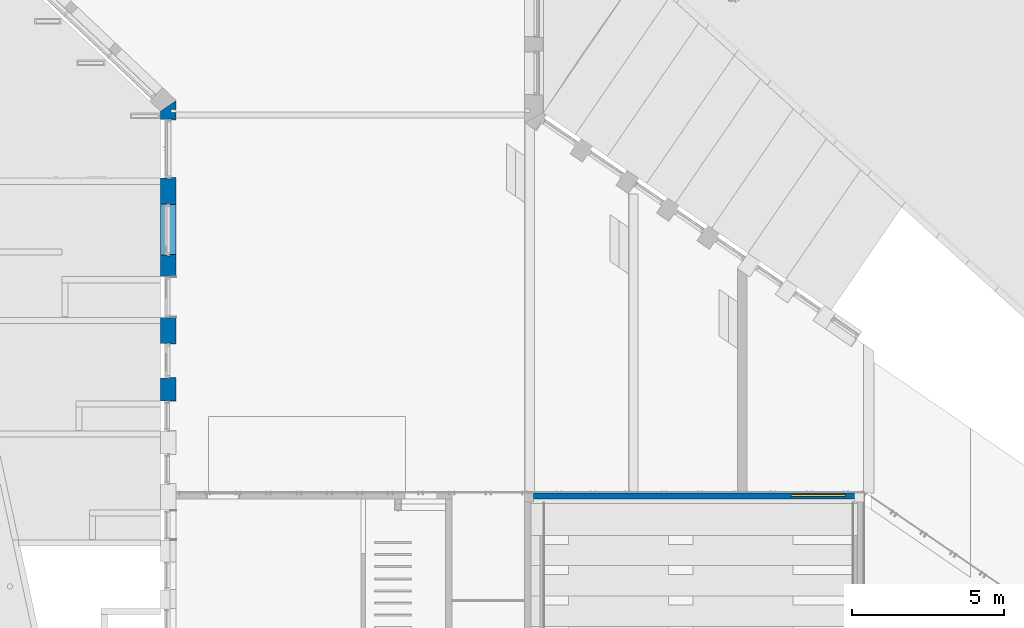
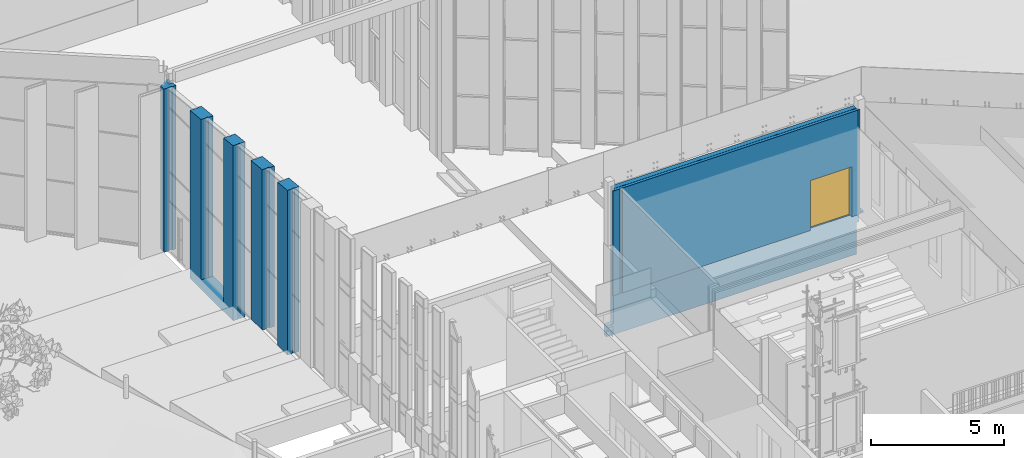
# One storey, part 123 of 246: 3 walls, 1 door, 4 openings.
"""IFC2X3 building model written with IfcOpenShell, lengths in millimetres."""

from ifc_helpers import new_model, entity, si_unit, converted_unit, derived_unit, money_unit, direction, frame, origin_with_axes, place, context, subcontext, project, spatial, faceted_brep, material, material_list, type_object, element, fill, save


model = new_model("IFC2X3")

# Units and contexts
model_context = context("Model", 3, precision=0.01, world=origin_with_axes(), true_north=direction((0.0, 1.0)))
body_context = subcontext(model_context, "Body", "Model", "MODEL_VIEW")
ifc_project = project(units=[si_unit("LENGTHUNIT", "METRE", prefix="MILLI"), si_unit("AREAUNIT", "SQUARE_METRE"), si_unit("VOLUMEUNIT", "CUBIC_METRE"), converted_unit("PLANEANGLEUNIT", "DEGREE", entity("IfcPlaneAngleMeasure", 0.0174532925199), si_unit("PLANEANGLEUNIT", "RADIAN"), dimensions=[0, 0, 0, 0, 0, 0, 0]), si_unit("SOLIDANGLEUNIT", "STERADIAN"), money_unit("EUR"), converted_unit("TIMEUNIT", "Year", entity("IfcTimeMeasure", 31556926.0), si_unit("TIMEUNIT", "SECOND"), dimensions=[0, 0, 1, 0, 0, 0, 0]), si_unit("MASSUNIT", "GRAM", prefix="KILO"), si_unit("THERMODYNAMICTEMPERATUREUNIT", "DEGREE_CELSIUS"), si_unit("LUMINOUSINTENSITYUNIT", "LUMEN"), si_unit("ENERGYUNIT", "JOULE", prefix="MEGA"), derived_unit("THERMALCONDUCTANCEUNIT", [(si_unit("POWERUNIT", "WATT"), 1), (si_unit("LENGTHUNIT", "METRE"), -1), (si_unit("THERMODYNAMICTEMPERATUREUNIT", "KELVIN"), -1)]), derived_unit("SPECIFICHEATCAPACITYUNIT", [(si_unit("ENERGYUNIT", "JOULE"), 1), (si_unit("MASSUNIT", "GRAM", prefix="KILO"), -1), (si_unit("THERMODYNAMICTEMPERATUREUNIT", "KELVIN"), -1)]), derived_unit("MASSDENSITYUNIT", [(si_unit("MASSUNIT", "GRAM", prefix="KILO"), 1), (si_unit("VOLUMEUNIT", "CUBIC_METRE"), -1)])], contexts=[model_context])

# Site, building, storey
site_placement = place(None, origin_with_axes())
site = spatial("IfcSite", under=ifc_project, at=site_placement, Name="L.Koidula tn 11b", CompositionType="ELEMENT")
building_placement = place(site_placement, origin_with_axes())
building = spatial("IfcBuilding", under=site, at=building_placement, Name="Rakvere Riigigümnaasium", CompositionType="ELEMENT")
storey_placement = place(building_placement, origin_with_axes())
storey = spatial("IfcBuildingStorey", under=building, at=storey_placement, Name="1.korrus 0,00", CompositionType="ELEMENT", Elevation=0.0)

# Wall, opening, door
ifc_material_1 = material(Name="Betoon element / plaat")
ifc_material_2 = material(Name="mineraalvill+karkass")
ifc_material_3 = material(Name="Kipsplaat")
ifc_material_list_1 = material_list([ifc_material_1, ifc_material_2, ifc_material_3])
wall_type_1 = type_object("IfcWallType", Name="SS-02 335", PredefinedType="NOTDEFINED")
wall_1_placement = place(storey_placement, frame((46999.9999935, 31500.4555152, -500.0), z_axis=(0.0, 0.0, 1.0), x_axis=(1.0, 0.0, 0.0)))
wall_1 = element("IfcWall", 1, at=wall_1_placement, inside=storey, type_object=wall_type_1, material=ifc_material_list_1, Name="Sisesein", context=body_context, shape_type="Brep", body=[
    faceted_brep([(10980.0348166, -200.0, 1449.82181515), (10980.0348166, -200.0, 1804.82181515), (11180.0348166, -200.0, 1804.82181515), (11180.0348884, -200.0, 1894.82181515), (10880.0348884, -200.0, 1894.82181515), (10880.0348884, -200.0, 6715.0), (300.000069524, -200.0, 6715.0), (300.000069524, -200.0, 500.0), (6.95239350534e-05, -200.0, 500.0), (0.0, -200.0, 0.0), (10880.0348884, -200.0, 0.0), (10880.0348884, -200.0, 1449.82181515), (10595.0, -200.0, 1894.82181515), (8795.0, -200.0, 1894.82181515), (8795.0, -200.0, 4194.82181515), (10595.0, -200.0, 4194.82181515), (10980.0348166, -2.07142676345e-05, 1449.82181515), (10980.0348166, -1.49659129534e-06, 1804.82181515), (11180.0348166, -1.49659129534e-06, 1804.82181515), (11180.0348884, -2.07142676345e-05, 1894.82181515), (10880.0348884, -2.07142676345e-05, 1894.82181515), (10880.0348884, -2.07142676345e-05, 6715.0), (300.000069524, -2.07142676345e-05, 6715.0), (300.000069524, -2.07142676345e-05, 500.0), (6.95239350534e-05, -2.07142676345e-05, 500.0), (0.0, 0.0, 0.0), (10880.0348884, -2.07142676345e-05, 0.0), (10880.0348884, -2.07142676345e-05, 1449.82181515), (8795.0, -2.07142676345e-05, 1894.82181515), (10595.0, -2.07142676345e-05, 1894.82181515), (8795.0, -2.07142676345e-05, 4194.82181515), (10595.0, -2.07142676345e-05, 4194.82181515)], [[[0, 1, 2, 3, 4, 5, 6, 7, 8, 9, 10, 11], [12, 13, 14, 15]], [[16, 17, 1, 0]], [[17, 18, 2, 1]], [[3, 2, 18, 19]], [[19, 20, 4, 3]], [[21, 5, 4, 20]], [[6, 5, 21, 22]], [[22, 23, 7, 6]], [[24, 8, 7, 23]], [[24, 25, 9, 8]], [[10, 9, 25, 26]], [[27, 11, 10, 26]], [[16, 0, 11, 27]], [[28, 13, 12, 29]], [[30, 14, 13, 28]], [[30, 31, 15, 14]], [[31, 29, 12, 15]], [[19, 18, 17, 16, 27, 26, 25, 24, 23, 22, 21, 20], [28, 29, 31, 30]]]),
    faceted_brep([(200.034816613, -299.999998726, 500.0), (200.034816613, -209.999974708, 500.0), (0.0, -210.0, 500.0), (0.0, -310.0, 500.0), (200.0, -310.0, 500.0), (200.0, -300.000020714, 500.0), (200.034816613, -209.999999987, 0.0), (200.034816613, -299.999998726, 0.0), (200.000000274, -210.0, 0.0), (200.000000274, -210.0, 329.999999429), (0.0, -210.0, 329.999999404), (0.0, -310.0, 329.999999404), (10595.0, -310.0, 1894.9938315), (10970.0348166, -310.0, 1894.9938315), (10970.0348166, -310.0, 6715.0), (200.0, -310.0, 6715.0), (200.000000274, -310.0, 329.999999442), (200.000000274, -310.0, 0.0), (200.034816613, -310.0, 0.0), (200.034816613, -310.0, 1544.9938315), (200.034816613, -310.0, 1834.9938315), (200.034816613, -310.0, 1894.9938315), (8795.0, -310.0, 1894.9938315), (8795.0, -310.0, 4194.82181515), (10595.0, -310.0, 4194.82181515), (200.0, -300.000020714, 6715.0), (200.034816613, -299.999998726, 1894.9938315), (200.034816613, -300.000020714, 1834.9938315), (200.034816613, -299.999998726, 1544.9938315), (300.000069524, -300.000020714, 6715.0), (300.000069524, -300.000020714, 1894.9938315), (10880.0348884, -300.000020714, 1894.9938315), (10970.0348166, -300.000020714, 1894.9938315), (10595.0, -210.000000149, 1894.9938315), (10880.0348884, -210.000000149, 1894.9938315), (10970.0348166, -300.000020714, 6715.0), (10880.0348884, -300.000020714, 6715.0), (10880.0348884, -210.0, 6715.0), (300.000069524, -210.0, 6715.0), (300.000069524, -210.000000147, 1894.9938315), (8795.0, -210.000000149, 1894.9938315), (8795.0, -210.000000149, 4194.82181515), (10595.0, -210.000000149, 4194.82181515)], [[[0, 1, 2, 3, 4, 5]], [[6, 1, 0, 7]], [[1, 6, 8, 9, 10, 2]], [[11, 3, 2, 10]], [[12, 13, 14, 15, 4, 3, 11, 16, 17, 18, 19, 20, 21, 22, 23, 24]], [[15, 25, 5, 4]], [[26, 27, 28, 0, 5, 25, 29, 30]], [[7, 0, 28, 19, 18]], [[6, 7, 18, 17, 8]], [[8, 17, 16, 9]], [[9, 16, 11, 10]], [[31, 32, 13, 12, 33, 34]], [[13, 32, 35, 14]], [[14, 35, 36, 37, 38, 29, 25, 15]], [[27, 20, 19, 28]], [[27, 26, 21, 20]], [[39, 40, 22, 21, 26, 30]], [[22, 40, 41, 23]], [[24, 23, 41, 42]], [[33, 12, 24, 42]], [[39, 30, 29, 38]], [[32, 31, 36, 35]], [[34, 33, 42, 41, 40, 39, 38, 37]], [[31, 34, 37, 36]]]),
    faceted_brep([(0.0, -335.0, 500.0), (200.034816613, -335.0, 500.0), (200.034816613, -310.0, 500.0), (0.0, -310.0, 500.0), (200.000000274, -335.0, 0.0), (200.034816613, -335.0, 0.0), (0.0, -335.0, 329.999999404), (200.000000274, -335.0, 329.999999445), (200.034816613, -310.0, 0.0), (200.000000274, -310.0, 0.0), (200.000000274, -310.0, 329.999999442), (0.0, -310.0, 329.999999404)], [[[0, 1, 2, 3]], [[4, 5, 1, 0, 6, 7]], [[5, 8, 2, 1]], [[3, 2, 8, 9, 10, 11]], [[6, 0, 3, 11]], [[9, 8, 5, 4]], [[10, 7, 6, 11]], [[9, 4, 7, 10]]]),
    faceted_brep([(504.0, -335.0, 1894.9938315), (504.0, -310.0, 1894.9938315), (504.0, -310.0, 6715.0), (504.0, -335.0, 6715.0), (210.0, -310.0, 1894.9938315), (210.0, -335.0, 1894.9938315), (210.0, -310.0, 6715.0), (210.0, -335.0, 6715.0)], [[[0, 1, 2, 3]], [[4, 1, 0, 5]], [[1, 4, 6, 2]], [[2, 6, 7, 3]], [[5, 0, 3, 7]], [[4, 5, 7, 6]]]),
    faceted_brep([(8795.0, -335.0, 1894.9938315), (8795.0, -310.0, 1894.9938315), (8795.0, -310.0, 4194.82181515), (8795.0, -335.0, 4194.82181515), (612.0, -310.0, 1894.9938315), (612.0, -335.0, 1894.9938315), (10870.0348166, -310.0, 1894.9938315), (10595.0, -310.0, 1894.9938315), (10595.0, -310.0, 4194.82181515), (612.0, -310.0, 6715.0), (10870.0348166, -310.0, 6715.0), (10595.0, -335.0, 4194.82181515), (10595.0, -335.0, 1894.9938315), (10870.0348166, -335.0, 1894.9938315), (10870.0348166, -335.0, 6715.0), (612.0, -335.0, 6715.0)], [[[0, 1, 2, 3]], [[4, 1, 0, 5]], [[6, 7, 8, 2, 1, 4, 9, 10]], [[11, 3, 2, 8]], [[12, 13, 14, 15, 5, 0, 3, 11]], [[4, 5, 15, 9]], [[7, 6, 13, 12]], [[7, 12, 11, 8]], [[14, 10, 9, 15]], [[13, 6, 10, 14]]]),
])
opening_1_placement = place(wall_1_placement, frame((9695.0, 0.0, 1894.82181515), z_axis=(0.0, 0.0, 1.0), x_axis=(1.0, 0.0, 0.0)))
opening_1 = element("IfcOpeningElement", 2, at=opening_1_placement, cuts=wall_1, Name="SU-015", context=body_context, shape_type="Brep", body=[
    faceted_brep([(-900.0, -670.0, 0.0), (-900.0, -670.0, 2300.0), (-900.0, -50.0, 2300.0), (-900.0, -50.0, 0.0), (900.0, -670.0, 0.0), (900.0, -670.0, 2300.0), (900.0, -50.0, 2300.0), (900.0, -50.0, 0.0)], [[[0, 1, 2, 3]], [[0, 4, 5, 1]], [[1, 5, 6, 2]], [[3, 2, 6, 7]], [[4, 0, 3, 7]], [[5, 4, 7, 6]]]),
    faceted_brep([(-900.0, 335.0, 2300.0), (-900.0, 335.0, 0.0), (-900.0, -50.0, 0.0), (-900.0, -50.0, 2300.0), (900.0, 335.0, 2300.0), (900.0, 335.0, 0.0), (900.0, -50.0, 0.0), (900.0, -50.0, 2300.0)], [[[0, 1, 2, 3]], [[0, 4, 5, 1]], [[1, 5, 6, 2]], [[3, 2, 6, 7]], [[4, 0, 3, 7]], [[5, 4, 7, 6]]]),
])
door_style = type_object("IfcDoorStyle", Name="Double Door 23", ConstructionType="NOTDEFINED", OperationType="DOUBLE_DOOR_SINGLE_SWING", ParameterTakesPrecedence=False, Sizeable=False)
door_placement = place(opening_1_placement, frame((900.0, 0.0, 0.0), z_axis=(0.0, 0.0, 1.0), x_axis=(-1.0, 0.0, 0.0)))
door = element("IfcDoor", 3, at=door_placement, inside=storey, type_object=door_style, Name="SU-015", ObjectType="DOOR", OverallHeight=2300.0, OverallWidth=1800.0, context=body_context, shape_type="Brep", body=[
    faceted_brep([(50.0, 90.0, 0.0), (50.0, 90.0, 2250.0), (50.0, 50.0, 2250.0), (50.0, 50.0, 0.0), (38.0, 90.0, 2250.0), (38.0, 90.0, 0.0), (38.0, 130.0, 2250.0), (0.0, 130.0, 2250.0), (0.0, 50.0, 2250.0), (0.0, 50.0, 0.0), (0.0, 130.0, 0.0), (38.0, 130.0, 0.0)], [[[0, 1, 2, 3]], [[4, 1, 0, 5]], [[4, 6, 7, 8, 2, 1]], [[3, 2, 8, 9]], [[5, 0, 3, 9, 10, 11]], [[6, 4, 5, 11]], [[6, 11, 10, 7]], [[10, 9, 8, 7]]]),
    faceted_brep([(1762.0, 90.0, 2250.0), (1750.0, 90.0, 2250.0), (1750.0, 50.0, 2250.0), (1800.0, 50.0, 2250.0), (1800.0, 130.0, 2250.0), (1762.0, 130.0, 2250.0), (1762.0, 90.0, 0.0), (1750.0, 90.0, 0.0), (1750.0, 50.0, 0.0), (1800.0, 50.0, 0.0), (1800.0, 130.0, 0.0), (1762.0, 130.0, 0.0)], [[[0, 1, 2, 3, 4, 5]], [[1, 0, 6, 7]], [[1, 7, 8, 2]], [[3, 2, 8, 9]], [[4, 3, 9, 10]], [[11, 5, 4, 10]], [[0, 5, 11, 6]], [[6, 11, 10, 9, 8, 7]]]),
    faceted_brep([(38.0, 130.0, 2262.0), (38.0, 130.0, 2250.0), (0.0, 130.0, 2250.0), (0.0, 130.0, 2300.0), (1800.0, 130.0, 2300.0), (1800.0, 130.0, 2250.0), (1762.0, 130.0, 2250.0), (1762.0, 130.0, 2262.0), (38.0, 90.0, 2262.0), (38.0, 90.0, 2250.0), (50.0, 90.0, 2250.0), (50.0, 50.0, 2250.0), (0.0, 50.0, 2250.0), (0.0, 50.0, 2300.0), (1800.0, 50.0, 2300.0), (1800.0, 50.0, 2250.0), (1762.0, 90.0, 2250.0), (1750.0, 50.0, 2250.0), (1750.0, 90.0, 2250.0), (1762.0, 90.0, 2262.0)], [[[0, 1, 2, 3, 4, 5, 6, 7]], [[1, 0, 8, 9]], [[9, 10, 11, 12, 2, 1]], [[2, 12, 13, 3]], [[3, 13, 14, 4]], [[4, 14, 15, 5]], [[16, 6, 5, 15, 17, 18]], [[7, 6, 16, 19]], [[0, 7, 19, 8]], [[16, 18, 10, 9, 8, 19]], [[10, 18, 17, 11]], [[17, 15, 14, 13, 12, 11]]]),
    faceted_brep([(1762.0, 130.0, 0.0), (1762.0, 90.0, 0.0), (900.0, 90.0, 0.0), (900.0, 130.0, 0.0), (1762.0, 130.0, 2262.0), (1762.0, 90.0, 2262.0), (900.0, 90.0, 2262.0), (900.0, 130.0, 2262.0)], [[[0, 1, 2, 3]], [[4, 5, 1, 0]], [[1, 5, 6, 2]], [[3, 2, 6, 7]], [[0, 3, 7, 4]], [[7, 6, 5, 4]]]),
    faceted_brep([(38.0, 130.0, 0.0), (900.0, 130.0, 0.0), (900.0, 90.0, 0.0), (38.0, 90.0, 0.0), (38.0, 130.0, 2262.0), (900.0, 130.0, 2262.0), (900.0, 90.0, 2262.0), (38.0, 90.0, 2262.0)], [[[0, 1, 2, 3]], [[0, 4, 5, 1]], [[1, 5, 6, 2]], [[3, 2, 6, 7]], [[4, 0, 3, 7]], [[5, 4, 7, 6]]]),
])
fill(opening_1, door)

# Wall, openings
ifc_material_4 = material(Name="FF-PIR soojustus")
ifc_material_5 = material(Name="Tuuletõke (RKL Facade)")
ifc_material_6 = material(Name="Salto-roovitus")
ifc_material_7 = material(Name="Puit-fassaad")
ifc_material_list_2 = material_list([ifc_material_1, ifc_material_4, ifc_material_5, ifc_material_6, ifc_material_6, ifc_material_7])
wall_type_2 = type_object("IfcWallType", Name="VS-03 514", PredefinedType="NOTDEFINED")
wall_2_placement = place(storey_placement, frame((35500.0000521, 44445.5569395, 0.0), z_axis=(0.0, 0.0, 1.0), x_axis=(0.0, -1.0, 0.0)))
wall_2 = element("IfcWall", 4, at=wall_2_placement, inside=storey, type_object=wall_type_2, material=ifc_material_list_2, Name="Välissein", context=body_context, shape_type="Brep", body=[
    faceted_brep([(605.101447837, -160.0, 7511.25250656), (625.101447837, -160.0, 7513.35459126), (645.101447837, -160.0, 7515.45667597), (645.101447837, 8.42796055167e-07, 7515.45667597), (394.047503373, 8.42796055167e-07, 7489.06984312), (394.047503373, -169.999999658, 7489.06984312), (294.047503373, -169.999999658, 7478.5594196), (294.047503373, 8.42803160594e-07, 7478.5594196), (6.66973676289e-06, 8.42803160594e-07, 7447.65378232), (209.435644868, -300.000000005, 7469.66635491), (605.101447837, -300.0, 7511.25250656), (605.101447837, -160.0, 0.0), (625.101447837, -160.0, 0.0), (645.101447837, -160.0, 0.0), (645.101447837, 7.49302841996e-07, 0.0), (394.047503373, 7.85689735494e-07, 0.0), (394.047503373, -169.999999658, 0.0), (294.047503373, -169.999999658, 0.0), (294.047503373, 8.00184807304e-07, 0.0), (6.66973676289e-06, 8.42803160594e-07, 0.0), (209.435646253, -300.000001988, 0.0), (605.101447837, -300.0, 0.0)], [[[0, 1, 2, 3, 4, 5, 6, 7, 8, 9, 10]], [[1, 0, 11, 12, 13, 2]], [[13, 14, 3, 2]], [[14, 15, 4, 3]], [[16, 5, 4, 15]], [[17, 6, 5, 16]], [[17, 18, 7, 6]], [[8, 7, 18, 19]], [[19, 20, 9, 8]], [[21, 10, 9, 20]], [[0, 10, 21, 11]], [[11, 21, 20, 19, 18, 17, 16, 15, 14, 13, 12]]]),
    faceted_brep([(2585.10144784, -160.0, 0.0), (2565.10144784, -160.0, 0.0), (2545.10144784, -160.0, 0.0), (2545.10144784, 4.73932004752e-07, 0.0), (5815.10142423, 0.0, 0.0), (5815.10142423, -200.0, 0.0), (5795.1014641, -200.0, 0.0), (5795.1014641, -300.0, 0.0), (5125.10141418, -300.0, 0.0), (5125.10141418, -200.0, 0.0), (5085.10141418, -200.0, 0.0), (5085.10141418, -300.0, 0.0), (3435.10141418, -300.0, 0.0), (3435.10141418, -200.0, 0.0), (3395.10141418, -200.0, 0.0), (3395.10141418, -300.0, 0.0), (2585.10144784, -300.0, 0.0), (2585.10144784, -160.0, 7719.35889238), (2565.10144784, -160.0, 7717.25680768), (2545.10144784, -160.0, 7715.15472297), (2545.10144784, 8.42803160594e-07, 7715.15472297), (5085.10141418, -7.00689639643e-06, 7982.11947701), (5815.10142423, 0.0, 8058.84556981), (3435.10141418, -7.00689639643e-06, 7808.69748882), (3435.10141418, -7.00689639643e-06, 436.0), (5085.10141418, -7.00689639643e-06, 436.0), (5815.10142423, -200.0, 8058.84556981), (5795.1014641, -200.0, 8056.74348929), (5795.1014641, -300.0, 8056.74348929), (5125.10141418, -300.0, 7986.32364642), (5125.10141418, -200.0, 7986.32364642), (5085.10141418, -200.0, 7982.11947701), (5085.10141418, -200.0, 436.0), (5085.10141418, -300.0, 436.0), (3435.10141418, -300.0, 436.0), (3435.10141418, -200.0, 436.0), (3395.10141418, -200.0, 7804.49331941), (3435.10141418, -200.0, 7808.69748882), (3395.10141418, -300.0, 7804.49331941), (2585.10144784, -300.0, 7719.35889238)], [[[0, 1, 2, 3, 4, 5, 6, 7, 8, 9, 10, 11, 12, 13, 14, 15, 16]], [[17, 18, 19, 2, 1, 0]], [[19, 20, 3, 2]], [[21, 22, 4, 3, 20, 23, 24, 25]], [[22, 26, 5, 4]], [[5, 26, 27, 6]], [[6, 27, 28, 7]], [[8, 7, 28, 29]], [[9, 8, 29, 30]], [[9, 30, 31, 32, 10]], [[11, 10, 32, 33]], [[34, 12, 11, 33]], [[35, 13, 12, 34]], [[36, 14, 13, 35, 37]], [[38, 15, 14, 36]], [[39, 16, 15, 38]], [[39, 17, 0, 16]], [[17, 39, 38, 36, 37, 23, 20, 19, 18]], [[28, 27, 26, 22, 21, 31, 30, 29]], [[23, 37, 35, 24]], [[24, 35, 32, 25]], [[31, 21, 25, 32]], [[35, 34, 33, 32]]]),
    faceted_brep([(265.285149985, -380.000002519, 0.0), (265.28514823, -380.000000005, 7475.53637426), (209.435644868, -300.000000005, 7469.66635491), (209.435646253, -300.000001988, 0.0), (625.101447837, -380.000002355, 0.0), (625.101447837, -380.000000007, 7513.35459126), (625.101447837, -300.000000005, 7513.35459126), (625.101447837, -300.000001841, 0.0)], [[[0, 1, 2, 3]], [[4, 5, 1, 0]], [[5, 6, 2, 1]], [[3, 2, 6, 7]], [[4, 0, 3, 7]], [[7, 6, 5, 4]]]),
    faceted_brep([(5105.10141418, -380.0, 7984.22156171), (5105.10141418, -300.000001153, 7984.22156171), (5105.10141418, -300.000001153, 436.0), (5105.10141418, -380.0, 436.0), (5815.10142423, -300.0, 8058.84556981), (5815.10142423, -380.0, 8058.84556981), (5815.10142423, -300.0, 0.0), (2565.10144784, -300.000001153, 0.0), (2565.10144784, -300.000000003, 7717.25680768), (3415.10141418, -300.000001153, 7806.59540411), (3415.10141418, -300.000001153, 436.0), (3415.10141418, -380.0, 436.0), (3415.10141418, -380.0, 7806.59540411), (2565.10144784, -380.000000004, 7717.25680768), (2565.10144784, -380.000001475, 0.0), (5815.10142423, -380.0, 0.0)], [[[0, 1, 2, 3]], [[4, 1, 0, 5]], [[1, 4, 6, 7, 8, 9, 10, 2]], [[10, 11, 3, 2]], [[5, 0, 3, 11, 12, 13, 14, 15]], [[4, 5, 15, 6]], [[6, 15, 14, 7]], [[13, 8, 7, 14]], [[9, 8, 13, 12]], [[9, 12, 11, 10]]]),
    faceted_brep([(5105.10141418, -430.0, 7984.22156171), (5105.10141418, -380.000001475, 7984.22156171), (5105.10141418, -380.000001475, 436.0), (5105.10141418, -430.0, 436.0), (5815.10142423, -380.0, 8058.84556981), (5815.10142423, -430.0, 8058.84556981), (2565.10144784, -380.000002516, 7717.25680768), (3415.10141418, -380.000001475, 7806.59540411), (3415.10141418, -380.000001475, 436.0), (5815.10142423, -380.0, 0.0), (2565.10144784, -380.000001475, 0.0), (3415.10141418, -430.0, 436.0), (3415.10141418, -430.0, 7806.59540411), (2565.10144784, -430.000000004, 7717.25680768), (2565.10144784, -430.00000168, 0.0), (5815.10142423, -430.0, 0.0)], [[[0, 1, 2, 3]], [[4, 1, 0, 5]], [[6, 7, 8, 2, 1, 4, 9, 10]], [[3, 2, 8, 11]], [[12, 13, 14, 15, 5, 0, 3, 11]], [[4, 5, 15, 9]], [[7, 6, 13, 12]], [[7, 12, 11, 8]], [[14, 10, 9, 15]], [[13, 6, 10, 14]]]),
    faceted_brep([(300.19108783, -430.000000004, 7479.20513634), (265.28514823, -380.000000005, 7475.53637426), (265.285149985, -380.000002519, 0.0), (300.191089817, -430.00000285, 0.0), (625.101447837, -380.000002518, 7513.35459126), (625.101447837, -430.000000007, 7513.35459126), (625.101447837, -380.000002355, 0.0), (625.101447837, -430.000002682, 0.0)], [[[0, 1, 2, 3]], [[4, 1, 0, 5]], [[1, 4, 6, 2]], [[6, 7, 3, 2]], [[5, 0, 3, 7]], [[4, 5, 7, 6]]]),
    faceted_brep([(5105.10141418, -462.0, 7984.22156171), (5105.10141418, -430.00000168, 7984.22156171), (5105.10141418, -430.00000168, 436.0), (5105.10141418, -462.0, 436.0), (5815.10142423, -430.0, 8058.84556981), (5815.10142423, -462.0, 8058.84556981), (2565.10144784, -430.000002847, 7717.25680768), (3415.10141418, -430.00000168, 7806.59540411), (3415.10141418, -430.00000168, 436.0), (5815.10142423, -430.0, 0.0), (2565.10144784, -430.00000168, 0.0), (3415.10141418, -462.0, 436.0), (3415.10141418, -462.0, 7806.59540411), (2565.10144784, -462.000000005, 7717.25680768), (2565.10144784, -462.000001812, 0.0), (5815.10142423, -462.0, 0.0)], [[[0, 1, 2, 3]], [[4, 1, 0, 5]], [[6, 7, 8, 2, 1, 4, 9, 10]], [[11, 3, 2, 8]], [[12, 13, 14, 15, 5, 0, 3, 11]], [[4, 5, 15, 9]], [[7, 6, 13, 12]], [[7, 12, 11, 8]], [[15, 14, 10, 9]], [[13, 6, 10, 14]]]),
    faceted_brep([(322.530889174, -462.000000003, 7481.55314408), (300.19108783, -430.000000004, 7479.20513634), (300.191089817, -430.00000285, 0.0), (322.53089131, -462.000003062, 0.0), (625.101447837, -430.00000285, 7513.35459126), (625.101447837, -462.000000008, 7513.35459126), (625.101447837, -430.000002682, 0.0), (625.101447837, -462.000002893, 0.0)], [[[0, 1, 2, 3]], [[4, 1, 0, 5]], [[1, 4, 6, 2]], [[2, 6, 7, 3]], [[5, 0, 3, 7]], [[4, 5, 7, 6]]]),
    faceted_brep([(5105.10141418, -494.0, 7984.22156171), (5105.10141418, -462.000001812, 7984.22156171), (5105.10141418, -462.000001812, 436.0), (5105.10141418, -494.0, 436.0), (5815.10142423, -462.0, 8058.84556981), (5815.10142423, -494.0, 8058.84556981), (2565.10144784, -462.000003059, 7717.25680768), (3415.10141418, -462.000001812, 7806.59540411), (3415.10141418, -462.000001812, 436.0), (5815.10142423, -462.0, 0.0), (2565.10144784, -462.000001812, 0.0), (3415.10141418, -494.0, 436.0), (3415.10141418, -494.0, 7806.59540411), (2565.10144784, -494.000000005, 7717.25680768), (2565.10144784, -494.000001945, 0.0), (5815.10142423, -494.0, 0.0)], [[[0, 1, 2, 3]], [[4, 1, 0, 5]], [[6, 7, 8, 2, 1, 4, 9, 10]], [[11, 3, 2, 8]], [[12, 13, 14, 15, 5, 0, 3, 11]], [[4, 5, 15, 9]], [[7, 6, 13, 12]], [[7, 12, 11, 8]], [[15, 14, 10, 9]], [[13, 6, 10, 14]]]),
    faceted_brep([(344.870690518, -494.000000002, 7483.90115182), (322.530889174, -462.000000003, 7481.55314408), (322.53089131, -462.000003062, 0.0), (344.870692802, -494.000003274, 0.0), (625.101447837, -462.000003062, 7513.35459126), (625.101447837, -494.000000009, 7513.35459126), (625.101447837, -462.000002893, 0.0), (625.101447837, -494.000003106, 0.0)], [[[0, 1, 2, 3]], [[4, 1, 0, 5]], [[1, 4, 6, 2]], [[2, 6, 7, 3]], [[5, 0, 3, 7]], [[4, 5, 7, 6]]]),
    faceted_brep([(5105.10141418, -514.0, 7984.22156171), (5105.10141418, -494.000001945, 7984.22156171), (5105.10141418, -494.000001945, 436.0), (5105.10141418, -514.0, 436.0), (5815.10142423, -494.0, 8058.84556981), (5815.10142423, -514.0, 8058.84556981), (2565.10144784, -494.000003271, 7717.25680768), (3415.10141418, -494.000001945, 7806.59540411), (3415.10141418, -494.000001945, 436.0), (5815.10142423, -494.0, 0.0), (2565.10144784, -494.000001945, 0.0), (3415.10141418, -514.0, 436.0), (3415.10141418, -514.0, 7806.59540411), (2565.10144784, -514.0, 7717.25680768), (2565.10144784, -514.0, 0.0), (5815.10142423, -514.0, 0.0)], [[[0, 1, 2, 3]], [[4, 1, 0, 5]], [[6, 7, 8, 2, 1, 4, 9, 10]], [[11, 3, 2, 8]], [[12, 13, 14, 15, 5, 0, 3, 11]], [[4, 5, 15, 9]], [[7, 6, 13, 12]], [[7, 12, 11, 8]], [[15, 14, 10, 9]], [[13, 6, 10, 14]]]),
    faceted_brep([(358.833066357, -514.0, 7485.36865665), (344.870690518, -494.000000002, 7483.90115182), (344.870692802, -494.000003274, 0.0), (358.833066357, -514.0, 0.0), (625.101447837, -494.000003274, 7513.35459126), (625.101447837, -514.0, 7513.35459126), (625.101447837, -494.000003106, 0.0), (625.101447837, -514.0, 0.0)], [[[0, 1, 2, 3]], [[4, 1, 0, 5]], [[1, 4, 6, 2]], [[2, 6, 7, 3]], [[5, 0, 3, 7]], [[4, 5, 7, 6]]]),
])
opening_2_placement = place(wall_2_placement, frame((1595.10144784, 0.0, 0.0), z_axis=(0.0, 0.0, 1.0), x_axis=(1.0, 0.0, 0.0)))
element("IfcOpeningElement", 5, at=opening_2_placement, cuts=wall_2, Name="Ava", context=body_context, shape_type="Brep", body=[
    faceted_brep([(-970.0, -1028.0, 0.0), (-970.0, -1028.0, 7534.16938499), (-970.0, -160.0, 7534.16938499), (-970.0, -160.0, 0.0), (970.0, -1028.0, 0.0), (970.0, -1028.0, 7737.35885867), (970.0, -160.0, 7737.35885867), (970.0, -160.0, 0.0)], [[[0, 1, 2, 3]], [[0, 4, 5, 1]], [[1, 5, 6, 2]], [[3, 2, 6, 7]], [[4, 0, 3, 7]], [[5, 4, 7, 6]]]),
    faceted_brep([(950.0, 514.0, 0.0), (950.0, 514.0, 7715.15472297), (950.0, -160.0, 7715.15472297), (950.0, -160.0, 0.0), (-950.0, 514.0, 0.0), (-950.0, 514.0, 7516.15472297), (-950.0, -160.0, 7516.15472297), (-950.0, -160.0, 0.0)], [[[0, 1, 2, 3]], [[0, 4, 5, 1]], [[1, 5, 6, 2]], [[3, 2, 6, 7]], [[4, 0, 3, 7]], [[5, 4, 7, 6]]]),
])
opening_3_placement = place(wall_2_placement, frame((4260.10141418, 0.0, 436.0), z_axis=(0.0, 0.0, 1.0), x_axis=(1.0, 0.0, 0.0)))
element("IfcOpeningElement", 6, at=opening_3_placement, cuts=wall_2, Name="Ava", context=body_context, shape_type="Brep", body=[
    faceted_brep([(-845.0, -1028.0, 0.0), (-845.0, -1028.0, 7391.13213888), (-845.0, -200.0, 7391.13213888), (-845.0, -200.0, 0.0), (845.0, -1028.0, 0.0), (845.0, -1028.0, 7568.32607828), (845.0, -200.0, 7568.32607828), (845.0, -200.0, 0.0)], [[[0, 1, 2, 3]], [[0, 4, 5, 1]], [[1, 5, 6, 2]], [[3, 2, 6, 7]], [[4, 0, 3, 7]], [[5, 4, 7, 6]]]),
    faceted_brep([(825.0, 514.0, 0.0), (825.0, 514.0, 7546.11947701), (825.0, -200.0, 7546.11947701), (825.0, -200.0, 0.0), (-825.0, 514.0, 0.0), (-825.0, 514.0, 7373.11947701), (-825.0, -200.0, 7373.11947701), (-825.0, -200.0, 0.0)], [[[0, 1, 2, 3]], [[0, 4, 5, 1]], [[1, 5, 6, 2]], [[3, 2, 6, 7]], [[4, 0, 3, 7]], [[5, 4, 7, 6]]]),
])

# Wall, opening
wall_3_placement = place(storey_placement, frame((35500.0000521, 37290.3410804, 910.0), z_axis=(0.0, 0.0, 1.0), x_axis=(0.0, -1.0, 0.0)))
wall_3 = element("IfcWall", 7, at=wall_3_placement, inside=storey, type_object=wall_type_2, material=ifc_material_list_2, Name="Välissein", context=body_context, shape_type="Brep", body=[
    faceted_brep([(0.0, -200.0, 0.0), (0.0, -200.0, 7289.69727265), (0.0, 0.0, 7289.69727265), (0.0, 0.0, 0.0), (20.1392120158, -200.0, 7291.81398912), (20.1392120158, -200.0, 0.0), (20.1392120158, -300.0, 7291.81398912), (840.148712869, -300.000052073, 7378.00046062), (840.148712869, -200.0, 7378.00046062), (880.148712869, -200.0, 7382.20463003), (880.148712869, 0.0, 7382.20463003), (880.148712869, 0.0, 0.0), (880.148712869, -200.0, 0.0), (840.148712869, -200.0, 0.0), (840.148712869, -300.000005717, 0.0), (20.1392120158, -300.0, 0.0)], [[[0, 1, 2, 3]], [[4, 1, 0, 5]], [[4, 6, 7, 8, 9, 10, 2, 1]], [[11, 3, 2, 10]], [[5, 0, 3, 11, 12, 13, 14, 15]], [[6, 4, 5, 15]], [[6, 15, 14, 7]], [[13, 8, 7, 14]], [[9, 8, 13, 12]], [[12, 11, 10, 9]]]),
    faceted_brep([(2740.0, -200.0, 7577.68287727), (2760.0, -200.0, 7579.78496198), (2760.0, 0.0, 7579.78496198), (1980.14774523, 0.0, 7497.81918712), (1980.14774523, -200.0, 7497.81918712), (2020.14871287, -200.0, 7502.02345823), (2020.14871287, -300.000052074, 7502.02345823), (2740.0, -300.000052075, 7577.68287727), (2740.0, -200.0, 0.0), (2760.0, -200.0, 0.0), (2760.0, 0.0, 0.0), (1980.14871287, 0.0, 0.0), (1980.14871287, -200.0, 0.0), (2020.14871287, -200.0, 0.0), (2020.14871287, -300.000005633, 0.0), (2740.0, -300.000005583, 0.0)], [[[0, 1, 2, 3, 4, 5, 6, 7]], [[1, 0, 8, 9]], [[1, 9, 10, 2]], [[10, 11, 3, 2]], [[11, 12, 4, 3]], [[13, 5, 4, 12]], [[14, 6, 5, 13]], [[15, 7, 6, 14]], [[0, 7, 15, 8]], [[8, 15, 14, 13, 12, 11, 10, 9]]]),
    faceted_brep([(0.0, -300.0, 0.0), (0.0, -380.0, 0.0), (0.0, -380.0, 7289.69727265), (0.0, -300.0, 7289.69727265), (860.148712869, -300.0, 0.0), (860.148712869, -380.0, 0.0), (860.148712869, -380.0, 7380.10254533), (860.148712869, -300.0, 7380.10254533)], [[[0, 1, 2, 3]], [[0, 4, 5, 1]], [[1, 5, 6, 2]], [[2, 6, 7, 3]], [[4, 0, 3, 7]], [[5, 4, 7, 6]]]),
    faceted_brep([(2000.14871287, -300.0, 0.0), (2000.14871287, -380.0, 0.0), (2000.14871287, -380.0, 7499.92137353), (2000.14871287, -300.0, 7499.92137353), (2760.0, -380.0, 0.0), (2760.0, -300.0, 0.0), (2760.0, -380.0, 7579.78496198), (2760.0, -300.0, 7579.78496198)], [[[0, 1, 2, 3]], [[4, 1, 0, 5]], [[1, 4, 6, 2]], [[2, 6, 7, 3]], [[5, 0, 3, 7]], [[4, 5, 7, 6]]]),
    faceted_brep([(2000.14871287, -430.0, 7499.92137353), (2000.14871287, -380.0, 7499.92137353), (2000.14871287, -380.0, 0.0), (2000.14871287, -430.0, 0.0), (2760.0, -380.0, 7579.78496198), (2760.0, -430.0, 7579.78496198), (2760.0, -380.0, 0.0), (2760.0, -430.0, 0.0)], [[[0, 1, 2, 3]], [[4, 1, 0, 5]], [[1, 4, 6, 2]], [[7, 3, 2, 6]], [[5, 0, 3, 7]], [[4, 5, 7, 6]]]),
    faceted_brep([(0.0, -430.0, 7289.69727265), (0.0, -380.0, 7289.69727265), (0.0, -380.0, 0.0), (0.0, -430.0, 0.0), (860.148712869, -380.0, 7380.10254533), (860.148712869, -430.0, 7380.10254533), (860.148712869, -380.0, 0.0), (860.148712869, -430.0, 0.0)], [[[0, 1, 2, 3]], [[4, 1, 0, 5]], [[1, 4, 6, 2]], [[2, 6, 7, 3]], [[5, 0, 3, 7]], [[4, 5, 7, 6]]]),
    faceted_brep([(2000.14871287, -462.0, 7499.92137353), (2000.14871287, -430.0, 7499.92137353), (2000.14871287, -430.0, 0.0), (2000.14871287, -462.0, 0.0), (2760.0, -430.0, 7579.78496198), (2760.0, -462.0, 7579.78496198), (2760.0, -430.0, 0.0), (2760.0, -462.0, 0.0)], [[[0, 1, 2, 3]], [[4, 1, 0, 5]], [[1, 4, 6, 2]], [[7, 3, 2, 6]], [[5, 0, 3, 7]], [[4, 5, 7, 6]]]),
    faceted_brep([(0.0, -462.0, 7289.69727265), (0.0, -430.0, 7289.69727265), (0.0, -430.0, 0.0), (0.0, -462.0, 0.0), (860.148712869, -430.0, 7380.10254533), (860.148712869, -462.0, 7380.10254533), (860.148712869, -430.0, 0.0), (860.148712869, -462.0, 0.0)], [[[0, 1, 2, 3]], [[4, 1, 0, 5]], [[1, 4, 6, 2]], [[2, 6, 7, 3]], [[5, 0, 3, 7]], [[4, 5, 7, 6]]]),
    faceted_brep([(2000.14871287, -494.0, 7499.92137353), (2000.14871287, -462.0, 7499.92137353), (2000.14871287, -462.0, 0.0), (2000.14871287, -494.0, 0.0), (2760.0, -462.0, 7579.78496198), (2760.0, -494.0, 7579.78496198), (2760.0, -462.0, 0.0), (2760.0, -494.0, 0.0)], [[[0, 1, 2, 3]], [[4, 1, 0, 5]], [[1, 4, 6, 2]], [[7, 3, 2, 6]], [[5, 0, 3, 7]], [[4, 5, 7, 6]]]),
    faceted_brep([(0.0, -494.0, 7289.69727265), (0.0, -462.0, 7289.69727265), (0.0, -462.0, 0.0), (0.0, -494.0, 0.0), (860.148712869, -462.0, 7380.10254533), (860.148712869, -494.0, 7380.10254533), (860.148712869, -462.0, 0.0), (860.148712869, -494.0, 0.0)], [[[0, 1, 2, 3]], [[4, 1, 0, 5]], [[1, 4, 6, 2]], [[2, 6, 7, 3]], [[5, 0, 3, 7]], [[4, 5, 7, 6]]]),
    faceted_brep([(2000.14871287, -514.0, 7499.92137353), (2000.14871287, -494.0, 7499.92137353), (2000.14871287, -494.0, 0.0), (2000.14871287, -514.0, 0.0), (2760.0, -494.0, 7579.78496198), (2760.0, -514.0, 7579.78496198), (2760.0, -494.0, 0.0), (2760.0, -514.0, 0.0)], [[[0, 1, 2, 3]], [[4, 1, 0, 5]], [[1, 4, 6, 2]], [[7, 3, 2, 6]], [[5, 0, 3, 7]], [[4, 5, 7, 6]]]),
    faceted_brep([(0.0, -514.0, 7289.69727265), (0.0, -494.0, 7289.69727265), (0.0, -494.0, 0.0), (0.0, -514.0, 0.0), (860.148712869, -494.0, 7380.10254533), (860.148712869, -514.0, 7380.10254533), (860.148712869, -494.0, 0.0), (860.148712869, -514.0, 0.0)], [[[0, 1, 2, 3]], [[4, 1, 0, 5]], [[1, 4, 6, 2]], [[2, 6, 7, 3]], [[5, 0, 3, 7]], [[4, 5, 7, 6]]]),
])
opening_4_placement = place(wall_3_placement, frame((1430.14871287, 0.0, 0.0), z_axis=(0.0, 0.0, 1.0), x_axis=(1.0, 0.0, 0.0)))
element("IfcOpeningElement", 8, at=opening_4_placement, cuts=wall_3, Name="Ava", context=body_context, shape_type="Brep", body=[
    faceted_brep([(-570.0, -1028.0, 0.0), (-570.0, -1028.0, 7400.82807208), (-570.0, -200.0, 7400.82807208), (-570.0, -200.0, 0.0), (570.0, -1028.0, 0.0), (570.0, -1028.0, 7520.00989026), (570.0, -200.0, 7520.00989026), (570.0, -200.0, 0.0)], [[[0, 1, 2, 3]], [[0, 4, 5, 1]], [[1, 5, 6, 2]], [[3, 2, 6, 7]], [[4, 0, 3, 7]], [[5, 4, 7, 6]]]),
    faceted_brep([(550.0, 514.0, 0.0), (550.0, 514.0, 7497.80998068), (550.0, -200.0, 7497.80998068), (550.0, -200.0, 0.0), (-550.0, 514.0, 0.0), (-550.0, 514.0, 7382.80998068), (-550.0, -200.0, 7382.80998068), (-550.0, -200.0, 0.0)], [[[0, 1, 2, 3]], [[0, 4, 5, 1]], [[1, 5, 6, 2]], [[3, 2, 6, 7]], [[4, 0, 3, 7]], [[5, 4, 7, 6]]]),
])

save(model, "model.ifc")
